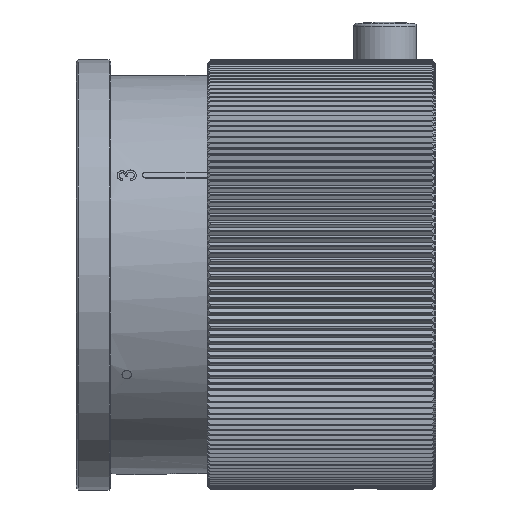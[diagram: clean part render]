
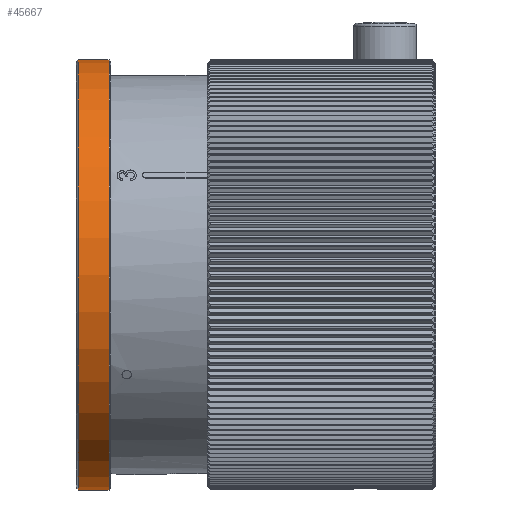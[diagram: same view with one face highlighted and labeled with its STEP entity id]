
A CAD part, left-side view. The second image highlights one B-rep face of the part: STEP entity #45667.
In plain terms, the highlighted cylindrical face has radius 34 mm (diameter 68 mm), a full revolution.
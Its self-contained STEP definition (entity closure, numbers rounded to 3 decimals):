
#917=CIRCLE('',#47998,34.);
#918=CIRCLE('',#47999,34.);
#3520=CYLINDRICAL_SURFACE('',#47997,34.);
#7797=ORIENTED_EDGE('',*,*,#17000,.T.);
#7798=ORIENTED_EDGE('',*,*,#17001,.T.);
#17000=EDGE_CURVE('',#21677,#21677,#917,.F.);
#17001=EDGE_CURVE('',#21678,#21678,#918,.T.);
#21677=VERTEX_POINT('',#63283);
#21678=VERTEX_POINT('',#63285);
#25993=EDGE_LOOP('',(#7797));
#25994=EDGE_LOOP('',(#7798));
#28290=FACE_BOUND('',#25993,.T.);
#28291=FACE_BOUND('',#25994,.T.);
#45667=ADVANCED_FACE('',(#28290,#28291),#3520,.T.);
#47997=AXIS2_PLACEMENT_3D('',#63281,#52462,#52463);
#47998=AXIS2_PLACEMENT_3D('',#63282,#52464,#52465);
#47999=AXIS2_PLACEMENT_3D('',#63284,#52466,#52467);
#52462=DIRECTION('',(1.,0.,0.));
#52463=DIRECTION('',(0.,0.,-1.));
#52464=DIRECTION('',(1.,0.,0.));
#52465=DIRECTION('',(0.,0.,-1.));
#52466=DIRECTION('',(1.,0.,0.));
#52467=DIRECTION('',(0.,0.,-1.));
#63281=CARTESIAN_POINT('',(-6.5,0.,0.));
#63282=CARTESIAN_POINT('',(0.7,0.,0.));
#63283=CARTESIAN_POINT('',(0.7,0.,-34.));
#63284=CARTESIAN_POINT('',(-4.2,0.,0.));
#63285=CARTESIAN_POINT('',(-4.2,0.,-34.));
